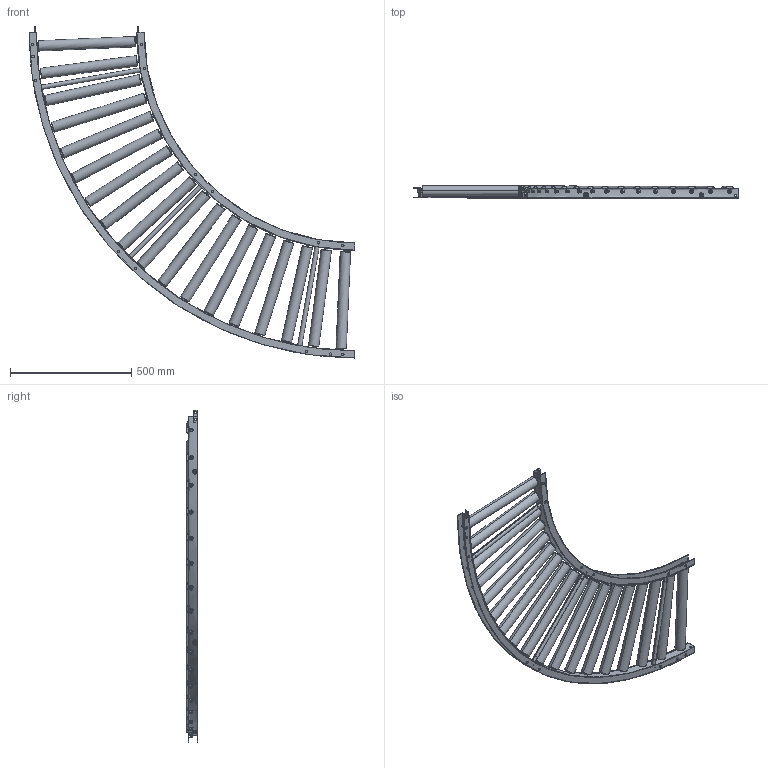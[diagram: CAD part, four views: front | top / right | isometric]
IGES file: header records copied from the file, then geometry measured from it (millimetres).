
Start section: SolidWorks IGES file using analytic representation for surfaces
Global section: file name: C:\Users\0656\Desktop\変換ツール\iges変換\R-4214PL_C.igs; native system: SolidWorks 2023; preprocessor: SolidWorks 2023; author: 0656; date: 240315.111828; units: millimetre
Bounding box: 1345 x 49.35 x 1370.08 mm (x, y, z)
Surface area: 2643980.3 mm2 (no closed solid volume)
Topology: 0 solids, 0 shells, 820 faces, 17092 edges, 17080 vertices
Faces by surface type: revolution 430, bspline 390
